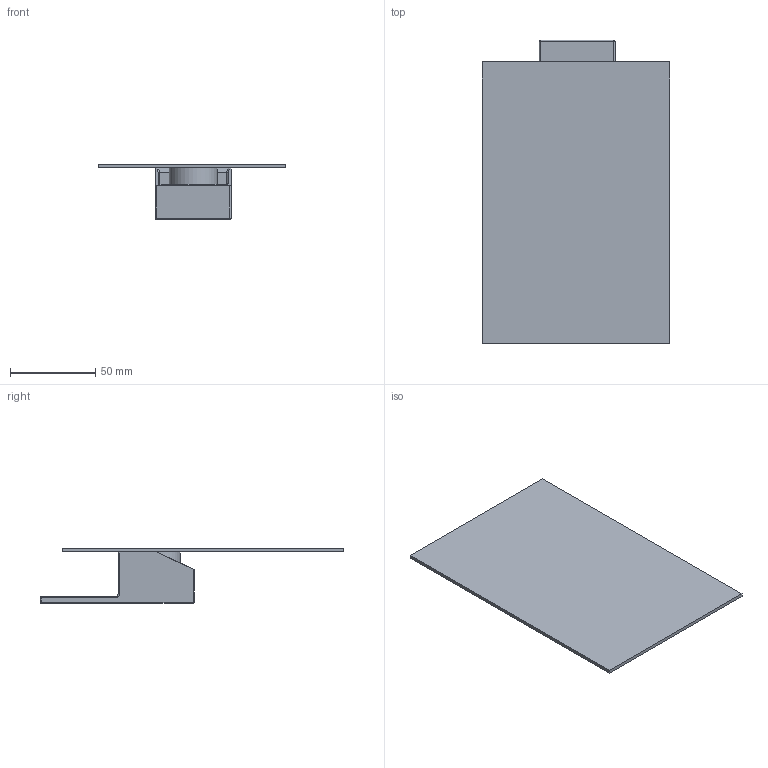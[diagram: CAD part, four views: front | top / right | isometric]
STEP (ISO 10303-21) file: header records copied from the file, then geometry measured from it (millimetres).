
FILE_DESCRIPTION (( 'STEP AP214' ), '1' );
FILE_NAME ('58217710 x architetti.STEP', '2025-01-25T05:44:17', ( '' ), ( '' ), 'SwSTEP 2.0', 'SolidWorks 2020', '' );
FILE_SCHEMA (( 'AUTOMOTIVE_DESIGN' ));
Length unit declared in the file: millimetre
Products named in the file (1): 58217710 x architetti
Bounding box: 110 x 177.71 x 32.12 mm (x, y, z)
Volume: 73071.9 mm3; surface area: 55224.3 mm2
Topology: 1 solids, 1 shells, 74 faces, 219 edges, 139 vertices
Faces by surface type: cylinder 30, plane 29, bspline 15
Entity records: 4148 total; most frequent: CARTESIAN_POINT 1556, ORIENTED_EDGE 418, DIRECTION 293, EDGE_CURVE 209, VERTEX_POINT 139, VECTOR 103, LINE 103, AXIS2_PLACEMENT_3D 95
